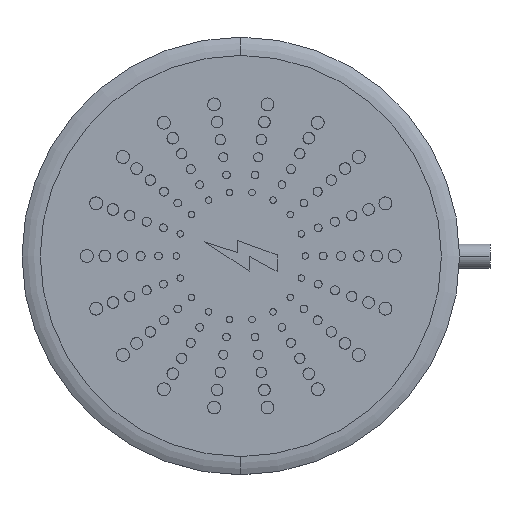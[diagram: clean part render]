
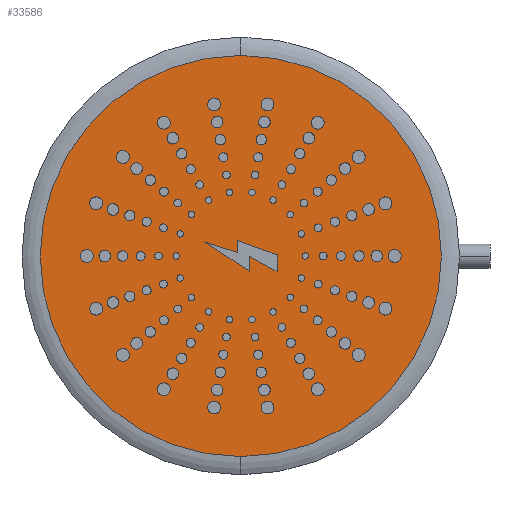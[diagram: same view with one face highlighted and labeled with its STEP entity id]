
A CAD part, top view. The second image highlights one B-rep face of the part: STEP entity #33586.
In plain terms, the highlighted planar face has unit normal (0, 0, 1).
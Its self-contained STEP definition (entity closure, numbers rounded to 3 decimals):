
#1726 = PLANE ( 'NONE',  #18415 ) ;
#2063 = ORIENTED_EDGE ( 'NONE', *, *, #10486, .F. ) ;
#2439 = FACE_OUTER_BOUND ( 'NONE', #17620, .T. ) ;
#6070 = ORIENTED_EDGE ( 'NONE', *, *, #23354, .F. ) ;
#8782 = DIRECTION ( 'NONE',  ( 1., 0., 0. ) ) ;
#9658 = AXIS2_PLACEMENT_3D ( 'NONE', #14699, #38830, #18188 ) ;
#10486 = EDGE_CURVE ( 'NONE', #14763, #32946, #17921, .T. ) ;
#12101 = CARTESIAN_POINT ( 'NONE',  ( 0., 0., 0.75 ) ) ;
#13943 = CARTESIAN_POINT ( 'NONE',  ( 33., 0., 0.75 ) ) ;
#14699 = CARTESIAN_POINT ( 'NONE',  ( 0., 0., 0.75 ) ) ;
#14763 = VERTEX_POINT ( 'NONE', #38942 ) ;
#17620 = EDGE_LOOP ( 'NONE', ( #2063, #6070 ) ) ;
#17642 = DIRECTION ( 'NONE',  ( 0., 0., -1. ) ) ;
#17921 = CIRCLE ( 'NONE', #34720, 33. ) ;
#18188 = DIRECTION ( 'NONE',  ( -1., 0., 0. ) ) ;
#18415 = AXIS2_PLACEMENT_3D ( 'NONE', #12101, #29374, #8782 ) ;
#23354 = EDGE_CURVE ( 'NONE', #32946, #14763, #25058, .T. ) ;
#25058 = CIRCLE ( 'NONE', #9658, 33. ) ;
#29374 = DIRECTION ( 'NONE',  ( 0., 0., 1. ) ) ;
#32946 = VERTEX_POINT ( 'NONE', #13943 ) ;
#33586 = ADVANCED_FACE ( 'NONE', ( #2439 ), #1726, .T. ) ;
#34720 = AXIS2_PLACEMENT_3D ( 'NONE', #38284, #17642, #41740 ) ;
#38284 = CARTESIAN_POINT ( 'NONE',  ( 0., 0., 0.75 ) ) ;
#38830 = DIRECTION ( 'NONE',  ( 0., 0., -1. ) ) ;
#38942 = CARTESIAN_POINT ( 'NONE',  ( -33., 0., 0.75 ) ) ;
#41740 = DIRECTION ( 'NONE',  ( -1., 0., 0. ) ) ;
